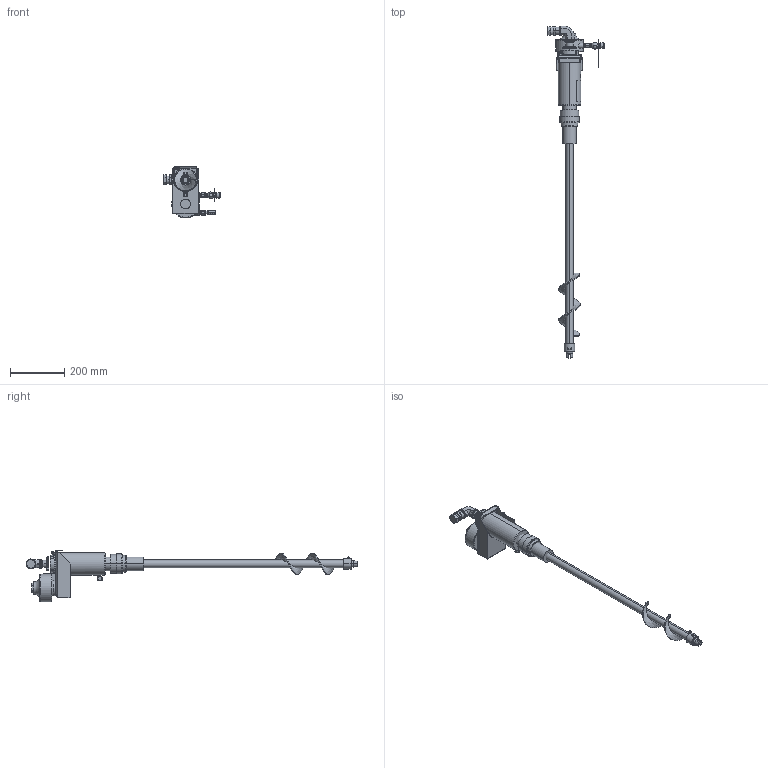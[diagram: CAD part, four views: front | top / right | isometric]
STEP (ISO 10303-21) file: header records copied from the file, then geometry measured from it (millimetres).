
FILE_DESCRIPTION((''),'2;1');
FILE_NAME('236760-EN-P_PRT','2022-02-14T11:23:35',('qtmwp1'),(''),'CREO PARAMETRIC BY PTC INC, 2021072','CREO PARAMETRIC BY PTC INC, 2021072','');
FILE_SCHEMA(('CONFIG_CONTROL_DESIGN'));
Length unit declared in the file: inch
Products named in the file (1): 236760-EN-P_PRT
Bounding box: 211.57 x 1225.54 x 191.77 mm (x, y, z)
Surface area: 634272.8 mm2 (no closed solid volume)
Topology: 0 solids, 77 shells, 407 faces, 1304 edges, 903 vertices
Faces by surface type: plane 179, cylinder 133, cone 61, torus 22, bspline 10, sphere 2
Entity records: 16567 total; most frequent: CARTESIAN_POINT 5421, DIRECTION 2388, ORIENTED_EDGE 2044, EDGE_CURVE 1304, VERTEX_POINT 903, AXIS2_PLACEMENT_3D 902, VECTOR 584, LINE 584
